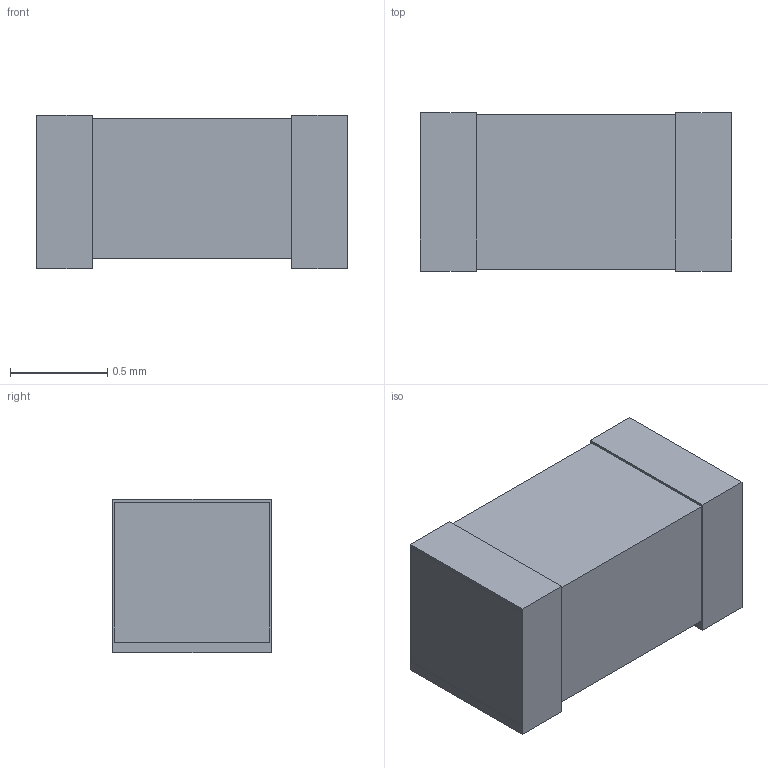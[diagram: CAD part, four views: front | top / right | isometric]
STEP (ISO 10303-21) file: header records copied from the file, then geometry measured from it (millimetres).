
FILE_DESCRIPTION(('FreeCAD Model'),'2;1');
FILE_NAME('Open CASCADE Shape Model','2026-09-23T12:07:02',('FreeCAD'),( 'FreeCAD'),'Open CASCADE STEP processor 7.8','FreeCAD','Unknown');
FILE_SCHEMA(('AUTOMOTIVE_DESIGN { 1 0 10303 214 1 1 1 1 }'));
Length unit declared in the file: millimetre
Products named in the file (1): Open CASCADE STEP translator 7.8 41
Bounding box: 1.6 x 0.81 x 0.79 mm (x, y, z)
Surface area: 10.4 mm2
Topology: 3 solids, 3 shells, 18 faces, 36 edges, 24 vertices
Faces by surface type: plane 18
Entity records: 466 total; most frequent: CARTESIAN_POINT 79, DIRECTION 74, ORIENTED_EDGE 72, EDGE_CURVE 36, LINE 36, VECTOR 36, VERTEX_POINT 24, AXIS2_PLACEMENT_3D 19
